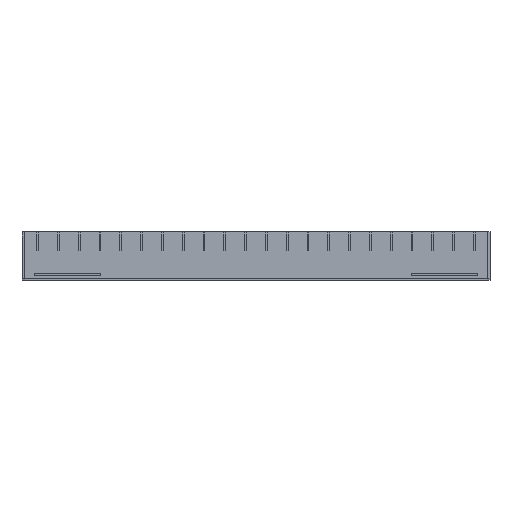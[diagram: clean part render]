
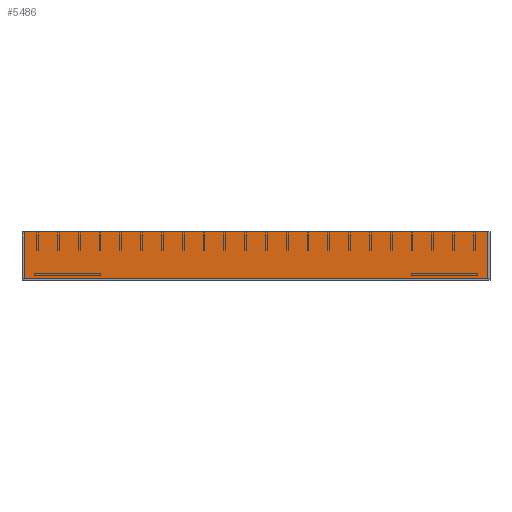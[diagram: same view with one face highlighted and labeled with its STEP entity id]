
A CAD part, top view. The second image highlights one B-rep face of the part: STEP entity #5486.
In plain terms, the highlighted planar face has unit normal (0, 0, 1).
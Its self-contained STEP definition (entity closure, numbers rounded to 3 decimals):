
#92 = AXIS2_PLACEMENT_3D ( 'NONE', #123, #5013, #826 ) ;
#123 = CARTESIAN_POINT ( 'NONE',  ( -63.234, -4.407, 3. ) ) ;
#148 = LINE ( 'NONE', #1526, #1562 ) ;
#767 = CARTESIAN_POINT ( 'NONE',  ( -63.234, -4.407, 3. ) ) ;
#826 = DIRECTION ( 'NONE',  ( 1., 0., 0. ) ) ;
#1053 = VERTEX_POINT ( 'NONE', #8226 ) ;
#1497 = PLANE ( 'NONE',  #92 ) ;
#1526 = CARTESIAN_POINT ( 'NONE',  ( -63.234, 45.593, 3. ) ) ;
#1562 = VECTOR ( 'NONE', #2209, 1000. ) ;
#1604 = CARTESIAN_POINT ( 'NONE',  ( -63.234, 45.593, 3. ) ) ;
#1630 = VERTEX_POINT ( 'NONE', #1604 ) ;
#2209 = DIRECTION ( 'NONE',  ( -1., 0., 0. ) ) ;
#2547 = VECTOR ( 'NONE', #4125, 1000. ) ;
#2846 = FACE_OUTER_BOUND ( 'NONE', #5655, .T. ) ;
#2937 = EDGE_CURVE ( 'NONE', #1053, #3696, #7916, .T. ) ;
#3570 = DIRECTION ( 'NONE',  ( 0., -1., 0. ) ) ;
#3696 = VERTEX_POINT ( 'NONE', #7460 ) ;
#3801 = VECTOR ( 'NONE', #3570, 1000. ) ;
#4019 = LINE ( 'NONE', #4972, #3801 ) ;
#4125 = DIRECTION ( 'NONE',  ( 0., 1., 0. ) ) ;
#4348 = ORIENTED_EDGE ( 'NONE', *, *, #7039, .T. ) ;
#4371 = DIRECTION ( 'NONE',  ( 1., 0., 0. ) ) ;
#4972 = CARTESIAN_POINT ( 'NONE',  ( -63.234, 45.593, 3. ) ) ;
#5013 = DIRECTION ( 'NONE',  ( 0., 0., 1. ) ) ;
#5486 = ADVANCED_FACE ( 'NONE', ( #2846 ), #1497, .T. ) ;
#5585 = EDGE_CURVE ( 'NONE', #6629, #1053, #7767, .T. ) ;
#5655 = EDGE_LOOP ( 'NONE', ( #8054, #7642, #9020, #4348 ) ) ;
#6486 = CARTESIAN_POINT ( 'NONE',  ( -63.234, -4.407, 3. ) ) ;
#6629 = VERTEX_POINT ( 'NONE', #767 ) ;
#7039 = EDGE_CURVE ( 'NONE', #3696, #1630, #148, .T. ) ;
#7460 = CARTESIAN_POINT ( 'NONE',  ( 430.766, 45.593, 3. ) ) ;
#7642 = ORIENTED_EDGE ( 'NONE', *, *, #5585, .T. ) ;
#7767 = LINE ( 'NONE', #6486, #7976 ) ;
#7916 = LINE ( 'NONE', #9012, #2547 ) ;
#7976 = VECTOR ( 'NONE', #4371, 1000. ) ;
#8054 = ORIENTED_EDGE ( 'NONE', *, *, #8751, .T. ) ;
#8226 = CARTESIAN_POINT ( 'NONE',  ( 430.766, -4.407, 3. ) ) ;
#8751 = EDGE_CURVE ( 'NONE', #1630, #6629, #4019, .T. ) ;
#9012 = CARTESIAN_POINT ( 'NONE',  ( 430.766, 45.593, 3. ) ) ;
#9020 = ORIENTED_EDGE ( 'NONE', *, *, #2937, .T. ) ;
